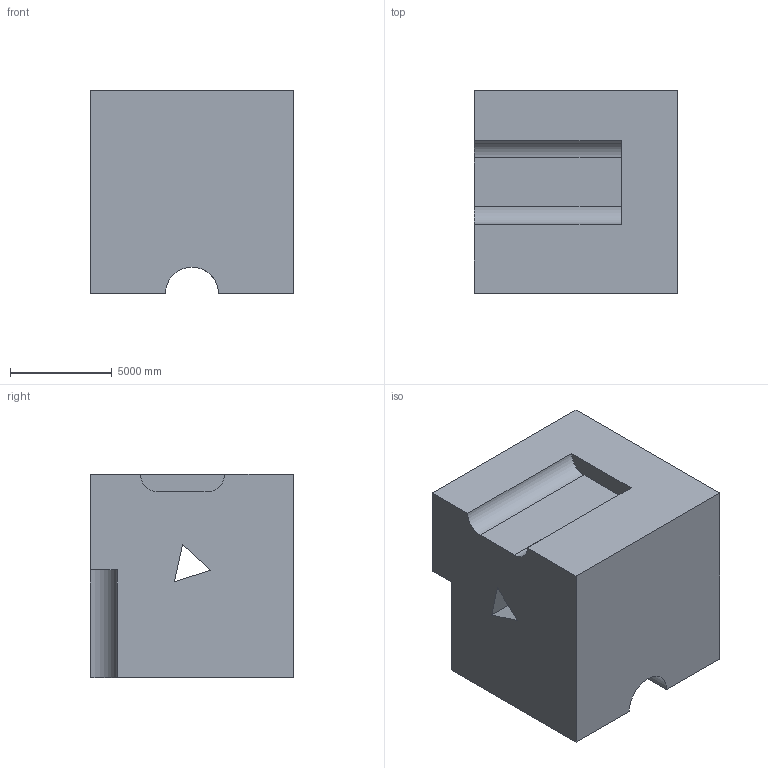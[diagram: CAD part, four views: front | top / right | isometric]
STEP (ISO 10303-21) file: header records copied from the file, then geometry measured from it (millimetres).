
FILE_DESCRIPTION (( 'STEP AP203' ), '1' );
FILE_NAME ('1596.STEP', '2022-08-18T16:02:39', ( 'user' ), ( '' ), 'SwSTEP 2.0', 'SolidWorks 2021', '' );
FILE_SCHEMA (( 'CONFIG_CONTROL_DESIGN' ));
Length unit declared in the file: centimetre
Products named in the file (1): 1596
Bounding box: 10000 x 10000 x 10000 mm (x, y, z)
Volume: 897451582574.4 mm3; surface area: 702333359.1 mm2
Topology: 1 solids, 1 shells, 27 faces, 72 edges, 48 vertices
Faces by surface type: plane 20, cylinder 7
Entity records: 922 total; most frequent: CARTESIAN_POINT 148, ORIENTED_EDGE 144, DIRECTION 143, EDGE_CURVE 72, LINE 57, VECTOR 57, VERTEX_POINT 48, AXIS2_PLACEMENT_3D 43
